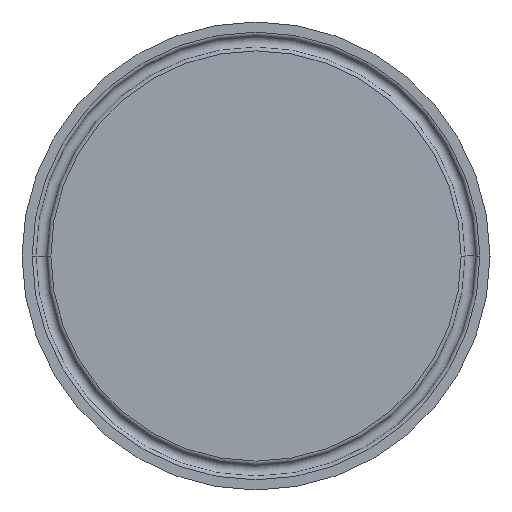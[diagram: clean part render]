
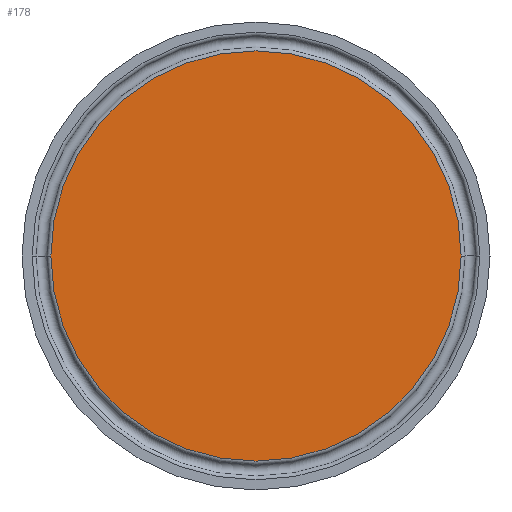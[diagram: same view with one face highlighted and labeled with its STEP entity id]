
A CAD part, front view. The second image highlights one B-rep face of the part: STEP entity #178.
In plain terms, the highlighted planar face has unit normal (0, -1, 0).
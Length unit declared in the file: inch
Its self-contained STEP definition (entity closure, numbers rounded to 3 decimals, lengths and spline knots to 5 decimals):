
#28 = ORIENTED_EDGE ( 'NONE', *, *, #327, .F. ) ;
#83 = DIRECTION ( 'NONE',  ( 0., 1., 0. ) ) ;
#93 = CARTESIAN_POINT ( 'NONE',  ( -1.56892, 0., 0. ) ) ;
#100 = FACE_OUTER_BOUND ( 'NONE', #105, .T. ) ;
#105 = EDGE_LOOP ( 'NONE', ( #28, #412 ) ) ;
#160 = VERTEX_POINT ( 'NONE', #277 ) ;
#178 = ADVANCED_FACE ( 'NONE', ( #100 ), #242, .T. ) ;
#179 = AXIS2_PLACEMENT_3D ( 'NONE', #255, #83, #302 ) ;
#188 = DIRECTION ( 'NONE',  ( -1., 0., 0. ) ) ;
#190 = DIRECTION ( 'NONE',  ( 0., 1., 0. ) ) ;
#193 = CARTESIAN_POINT ( 'NONE',  ( 0., 0., 0. ) ) ;
#194 = CIRCLE ( 'NONE', #284, 1.56892 ) ;
#200 = EDGE_CURVE ( 'NONE', #160, #380, #194, .T. ) ;
#218 = DIRECTION ( 'NONE',  ( 1., 0., 0. ) ) ;
#239 = DIRECTION ( 'NONE',  ( 0., -1., 0. ) ) ;
#242 = PLANE ( 'NONE',  #263 ) ;
#255 = CARTESIAN_POINT ( 'NONE',  ( 0., 0., 0. ) ) ;
#262 = CIRCLE ( 'NONE', #179, 1.56892 ) ;
#263 = AXIS2_PLACEMENT_3D ( 'NONE', #299, #239, #218 ) ;
#277 = CARTESIAN_POINT ( 'NONE',  ( 1.56892, 0., 0. ) ) ;
#284 = AXIS2_PLACEMENT_3D ( 'NONE', #193, #190, #188 ) ;
#299 = CARTESIAN_POINT ( 'NONE',  ( 0., 0., 0. ) ) ;
#302 = DIRECTION ( 'NONE',  ( -1., 0., 0. ) ) ;
#327 = EDGE_CURVE ( 'NONE', #380, #160, #262, .T. ) ;
#380 = VERTEX_POINT ( 'NONE', #93 ) ;
#412 = ORIENTED_EDGE ( 'NONE', *, *, #200, .F. ) ;
